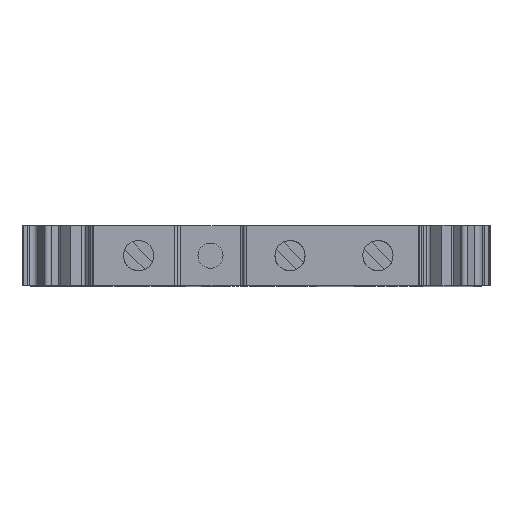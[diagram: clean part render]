
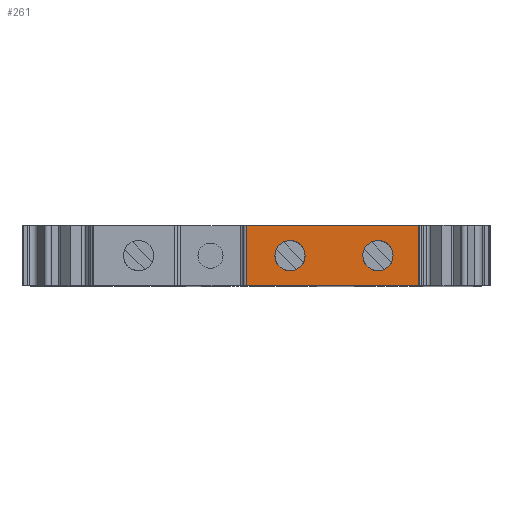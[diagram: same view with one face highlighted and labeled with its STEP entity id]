
A CAD part, top view. The second image highlights one B-rep face of the part: STEP entity #261.
In plain terms, the highlighted planar face has unit normal (0, 0, 1).
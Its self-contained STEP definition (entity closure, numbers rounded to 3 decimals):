
#261 = ADVANCED_FACE( '', ( #728, #729, #730 ), #731, .T. );
#728 = FACE_BOUND( '', #1406, .T. );
#729 = FACE_OUTER_BOUND( '', #1407, .T. );
#730 = FACE_BOUND( '', #1408, .T. );
#731 = PLANE( '', #1409 );
#1406 = EDGE_LOOP( '', ( #2120 ) );
#1407 = EDGE_LOOP( '', ( #2121, #2122, #2123, #2124 ) );
#1408 = EDGE_LOOP( '', ( #2125 ) );
#1409 = AXIS2_PLACEMENT_3D( '', #2126, #2127, #2128 );
#2120 = ORIENTED_EDGE( '', *, *, #4184, .T. );
#2121 = ORIENTED_EDGE( '', *, *, #4185, .F. );
#2122 = ORIENTED_EDGE( '', *, *, #4186, .F. );
#2123 = ORIENTED_EDGE( '', *, *, #4187, .T. );
#2124 = ORIENTED_EDGE( '', *, *, #4188, .T. );
#2125 = ORIENTED_EDGE( '', *, *, #4189, .T. );
#2126 = CARTESIAN_POINT( '', ( -4.444, 6., 40.7 ) );
#2127 = DIRECTION( '', ( 0., 0., 1. ) );
#2128 = DIRECTION( '', ( 1., 0., 0. ) );
#4184 = EDGE_CURVE( '', #5041, #5041, #5042, .T. );
#4185 = EDGE_CURVE( '', #5043, #5044, #5045, .T. );
#4186 = EDGE_CURVE( '', #5046, #5043, #5047, .T. );
#4187 = EDGE_CURVE( '', #5046, #5048, #5049, .T. );
#4188 = EDGE_CURVE( '', #5048, #5044, #5050, .T. );
#4189 = EDGE_CURVE( '', #5051, #5051, #5052, .T. );
#5041 = VERTEX_POINT( '', #6283 );
#5042 = CIRCLE( '', #6284, 1.5 );
#5043 = VERTEX_POINT( '', #6285 );
#5044 = VERTEX_POINT( '', #6286 );
#5045 = LINE( '', #6287, #6288 );
#5046 = VERTEX_POINT( '', #6289 );
#5047 = LINE( '', #6290, #6291 );
#5048 = VERTEX_POINT( '', #6292 );
#5049 = LINE( '', #6293, #6294 );
#5050 = LINE( '', #6295, #6296 );
#5051 = VERTEX_POINT( '', #6297 );
#5052 = CIRCLE( '', #6298, 1.5 );
#6283 = CARTESIAN_POINT( '', ( -2.974, 3., 40.7 ) );
#6284 = AXIS2_PLACEMENT_3D( '', #7905, #7906, #7907 );
#6285 = CARTESIAN_POINT( '', ( -0.449, 0., 40.7 ) );
#6286 = CARTESIAN_POINT( '', ( -17.564, 0., 40.7 ) );
#6287 = CARTESIAN_POINT( '', ( -4.444, 0., 40.7 ) );
#6288 = VECTOR( '', #7908, 1000. );
#6289 = CARTESIAN_POINT( '', ( -0.449, 6., 40.7 ) );
#6290 = CARTESIAN_POINT( '', ( -0.449, 6., 40.7 ) );
#6291 = VECTOR( '', #7909, 1000. );
#6292 = CARTESIAN_POINT( '', ( -17.564, 6., 40.7 ) );
#6293 = CARTESIAN_POINT( '', ( -0.449, 6., 40.7 ) );
#6294 = VECTOR( '', #7910, 1000. );
#6295 = CARTESIAN_POINT( '', ( -17.564, 6., 40.7 ) );
#6296 = VECTOR( '', #7911, 1000. );
#6297 = CARTESIAN_POINT( '', ( -11.714, 3., 40.7 ) );
#6298 = AXIS2_PLACEMENT_3D( '', #7912, #7913, #7914 );
#7905 = CARTESIAN_POINT( '', ( -4.474, 3., 40.7 ) );
#7906 = DIRECTION( '', ( 0., 0., -1. ) );
#7907 = DIRECTION( '', ( 1., 0., 0. ) );
#7908 = DIRECTION( '', ( -1., 0., 0. ) );
#7909 = DIRECTION( '', ( 0., -1., 0. ) );
#7910 = DIRECTION( '', ( -1., 0., 0. ) );
#7911 = DIRECTION( '', ( 0., -1., 0. ) );
#7912 = CARTESIAN_POINT( '', ( -13.214, 3., 40.7 ) );
#7913 = DIRECTION( '', ( 0., 0., -1. ) );
#7914 = DIRECTION( '', ( 1., 0., 0. ) );
